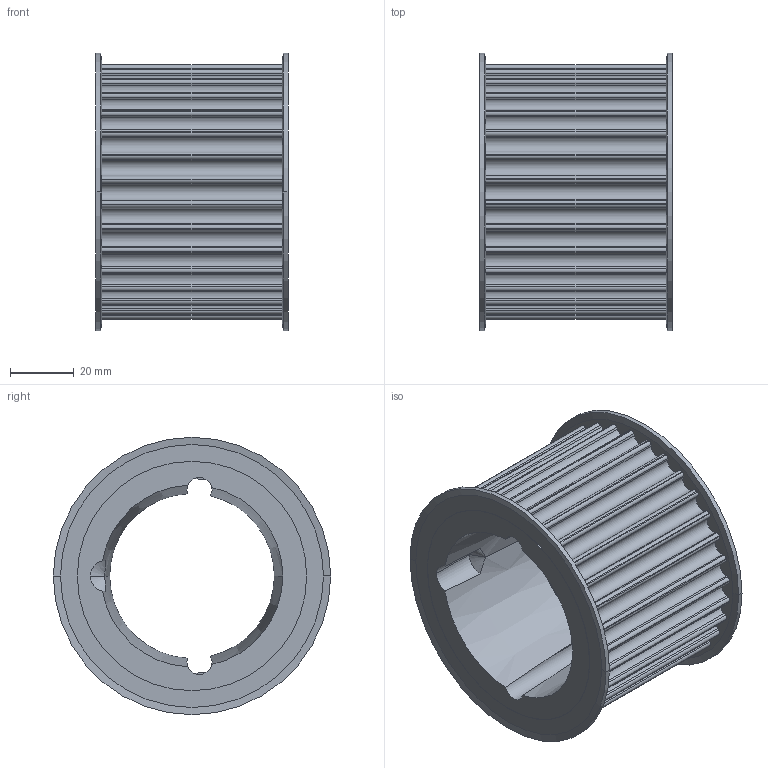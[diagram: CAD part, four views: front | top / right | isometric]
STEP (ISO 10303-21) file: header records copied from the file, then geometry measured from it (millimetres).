
FILE_DESCRIPTION( ( '' ), '1' );
FILE_NAME( 'C:/Users/Stangenbergd/Documents/CAD_Step/1/17477416.stp', '2021-10-19T10:20:23', ( '' ), ( '' ), ' ', ' ', ' ' );
FILE_SCHEMA( ( 'CONFIG_CONTROL_DESIGN' ) );
Length unit declared in the file: millimetre
Products named in the file (1): 1
Bounding box: 60.33 x 87 x 87 mm (x, y, z)
Volume: 116283.9 mm3; surface area: 42999.2 mm2
Topology: 1 solids, 1 shells, 236 faces, 676 edges, 446 vertices
Faces by surface type: cylinder 146, plane 74, cone 14, torus 2
Entity records: 8010 total; most frequent: CARTESIAN_POINT 1499, DIRECTION 1456, ORIENTED_EDGE 1352, EDGE_CURVE 676, AXIS2_PLACEMENT_3D 555, VERTEX_POINT 446, LINE 346, VECTOR 346
